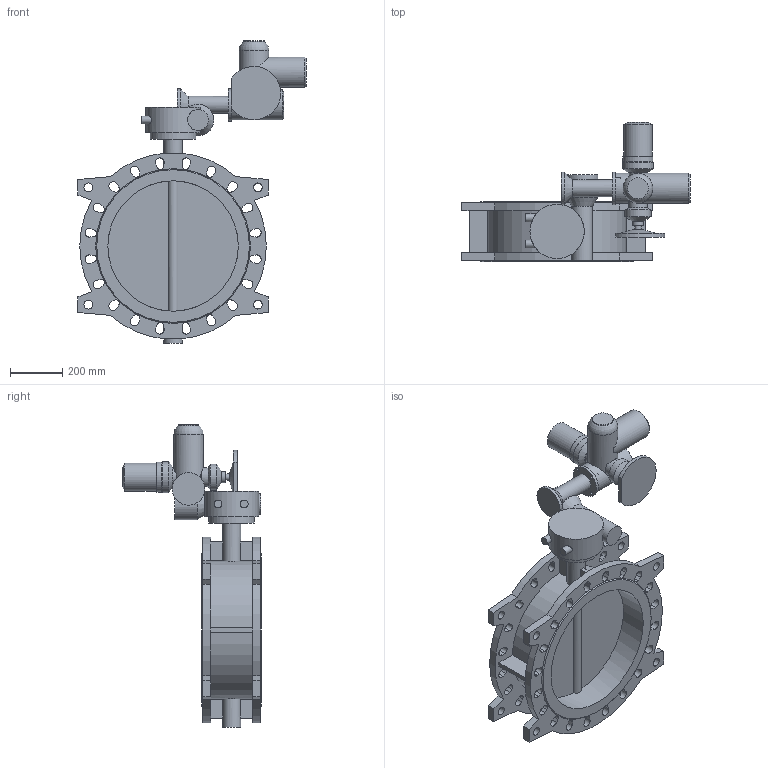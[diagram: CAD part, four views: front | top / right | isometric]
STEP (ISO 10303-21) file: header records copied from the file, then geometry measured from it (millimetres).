
FILE_DESCRIPTION(('STEP AP203'), '1');
FILE_NAME('Çàòâîð 021F.Y DN500 +ðåäóêòîð+ÌÒ903.À07-45', '', ('UNSPECIFIED'), ('UNSPECIFIED'), 'ASCON STEP Converter 1.6', 'ASCON Math Kernel', '');
FILE_SCHEMA(('CONFIG_CONTROL_DESIGN'));
Length unit declared in the file: millimetre
Bounding box: 875 x 532.5 x 1158 mm (x, y, z)
Volume: 36829138.5 mm3; surface area: 2906825.5 mm2
Topology: 1 solids, 1 shells, 333 faces, 872 edges, 575 vertices
Faces by surface type: plane 172, cylinder 147, cone 13, torus 1
Full cylindrical faces by diameter (mm): 8.5 x4, 12 x4, 14 x4, 18 x4, 24 x1, 30 x2, 33 x8, 42 x1, 65 x1, 66 x1, 70 x2, 72 x1, 80 x2, 100 x1, 108 x1, 114 x1, 115 x1, 116 x2, 119 x1, 120 x1, 125 x2, 175 x1, 208 x1, 500 x2
Entity records: 15348 total; most frequent: CARTESIAN_POINT 4271, DIRECTION 1742, ORIENTED_EDGE 1616, EDGE_CURVE 808, AXIS2_PLACEMENT_3D 636, VERTEX_POINT 575, EDGE_LOOP 527, LINE 470
